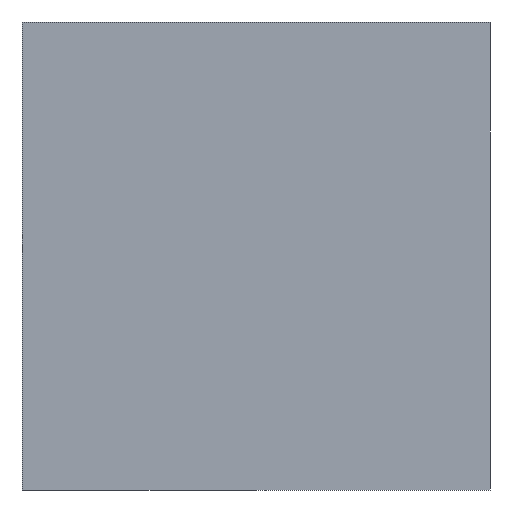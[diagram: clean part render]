
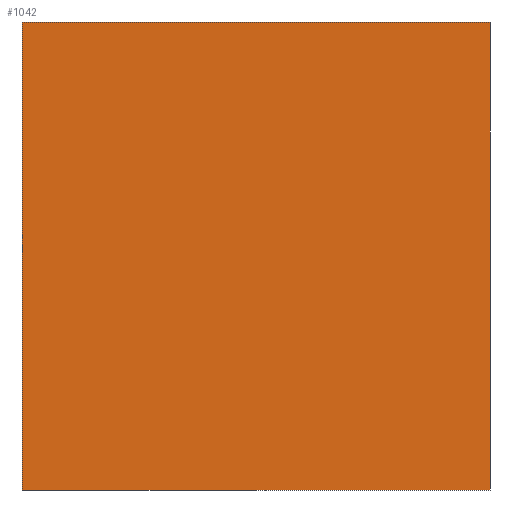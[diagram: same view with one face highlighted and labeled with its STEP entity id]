
A CAD part, left-side view. The second image highlights one B-rep face of the part: STEP entity #1042.
In plain terms, the highlighted planar face has unit normal (-1, 0, 0).
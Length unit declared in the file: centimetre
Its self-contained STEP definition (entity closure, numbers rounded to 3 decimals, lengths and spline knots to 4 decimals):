
#14 = EDGE_CURVE ( 'NONE', #799, #289, #307, .T. ) ;
#66 = ORIENTED_EDGE ( 'NONE', *, *, #1242, .F. ) ;
#91 = LINE ( 'NONE', #898, #601 ) ;
#130 = CARTESIAN_POINT ( 'NONE',  ( 0., 1000., 0. ) ) ;
#289 = VERTEX_POINT ( 'NONE', #438 ) ;
#307 = LINE ( 'NONE', #1020, #1196 ) ;
#375 = VERTEX_POINT ( 'NONE', #1114 ) ;
#438 = CARTESIAN_POINT ( 'NONE',  ( 0., 1000., 0. ) ) ;
#448 = CARTESIAN_POINT ( 'NONE',  ( 0., 1000., 1000. ) ) ;
#469 = ORIENTED_EDGE ( 'NONE', *, *, #14, .T. ) ;
#524 = DIRECTION ( 'NONE',  ( 0., -1., 0. ) ) ;
#538 = DIRECTION ( 'NONE',  ( 0., -1., 0. ) ) ;
#587 = CARTESIAN_POINT ( 'NONE',  ( 0., 1000., 1000. ) ) ;
#601 = VECTOR ( 'NONE', #1304, 100. ) ;
#643 = LINE ( 'NONE', #448, #1104 ) ;
#738 = AXIS2_PLACEMENT_3D ( 'NONE', #587, #1007, #805 ) ;
#756 = LINE ( 'NONE', #130, #952 ) ;
#777 = CARTESIAN_POINT ( 'NONE',  ( 0., 0., 1000. ) ) ;
#799 = VERTEX_POINT ( 'NONE', #1091 ) ;
#805 = DIRECTION ( 'NONE',  ( 0., 0., -1. ) ) ;
#839 = DIRECTION ( 'NONE',  ( 0., 0., -1. ) ) ;
#898 = CARTESIAN_POINT ( 'NONE',  ( 0., 0., 1000. ) ) ;
#943 = ORIENTED_EDGE ( 'NONE', *, *, #1192, .T. ) ;
#952 = VECTOR ( 'NONE', #538, 100. ) ;
#1007 = DIRECTION ( 'NONE',  ( 1., 0., 0. ) ) ;
#1019 = FACE_OUTER_BOUND ( 'NONE', #1094, .T. ) ;
#1020 = CARTESIAN_POINT ( 'NONE',  ( 0., 1000., 1000. ) ) ;
#1042 = ADVANCED_FACE ( 'NONE', ( #1019 ), #1206, .F. ) ;
#1060 = ORIENTED_EDGE ( 'NONE', *, *, #1062, .F. ) ;
#1062 = EDGE_CURVE ( 'NONE', #1334, #375, #91, .T. ) ;
#1091 = CARTESIAN_POINT ( 'NONE',  ( 0., 1000., 1000. ) ) ;
#1094 = EDGE_LOOP ( 'NONE', ( #943, #1060, #66, #469 ) ) ;
#1104 = VECTOR ( 'NONE', #524, 100. ) ;
#1114 = CARTESIAN_POINT ( 'NONE',  ( 0., 0., 0. ) ) ;
#1192 = EDGE_CURVE ( 'NONE', #289, #375, #756, .T. ) ;
#1196 = VECTOR ( 'NONE', #839, 100. ) ;
#1206 = PLANE ( 'NONE',  #738 ) ;
#1242 = EDGE_CURVE ( 'NONE', #799, #1334, #643, .T. ) ;
#1304 = DIRECTION ( 'NONE',  ( 0., 0., -1. ) ) ;
#1334 = VERTEX_POINT ( 'NONE', #777 ) ;
